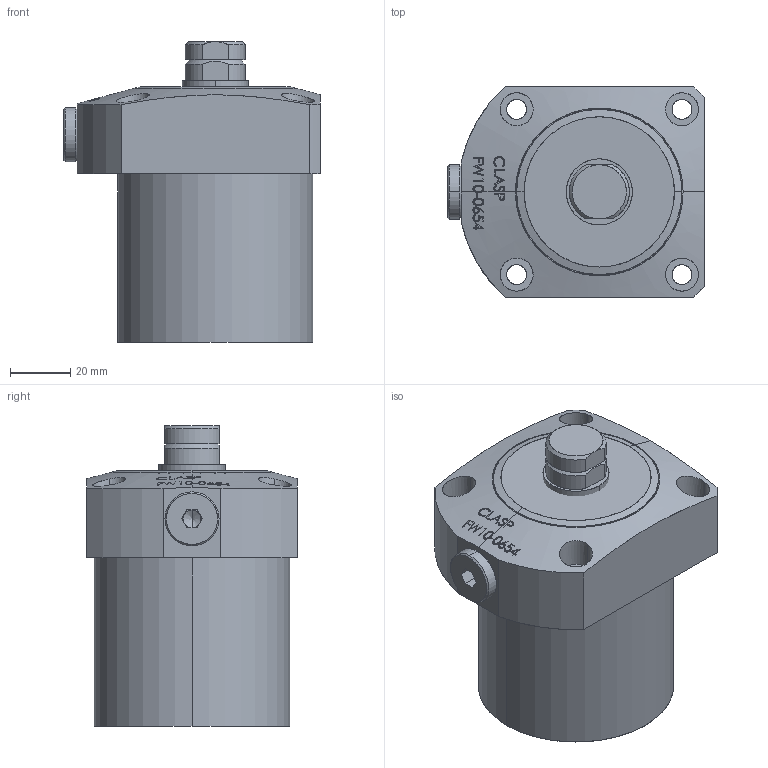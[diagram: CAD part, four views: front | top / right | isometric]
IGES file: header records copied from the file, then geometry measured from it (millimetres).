
Start section: SolidWorks IGES file using analytic representation for surfaces
Global section: file name: D:\karuppas\Clasp\3D model\Work support\Work support FW10-0654\FW10-0654 Work support.IGS; native system: SolidWorks 2017; preprocessor: SolidWorks 2017; author: pc; date: 220709.224306; units: millimetre
Bounding box: 85.5 x 70 x 100 mm (x, y, z)
Surface area: 38631.9 mm2 (no closed solid volume)
Topology: 0 solids, 0 shells, 269 faces, 4429 edges, 4425 vertices
Faces by surface type: bspline 203, revolution 66
